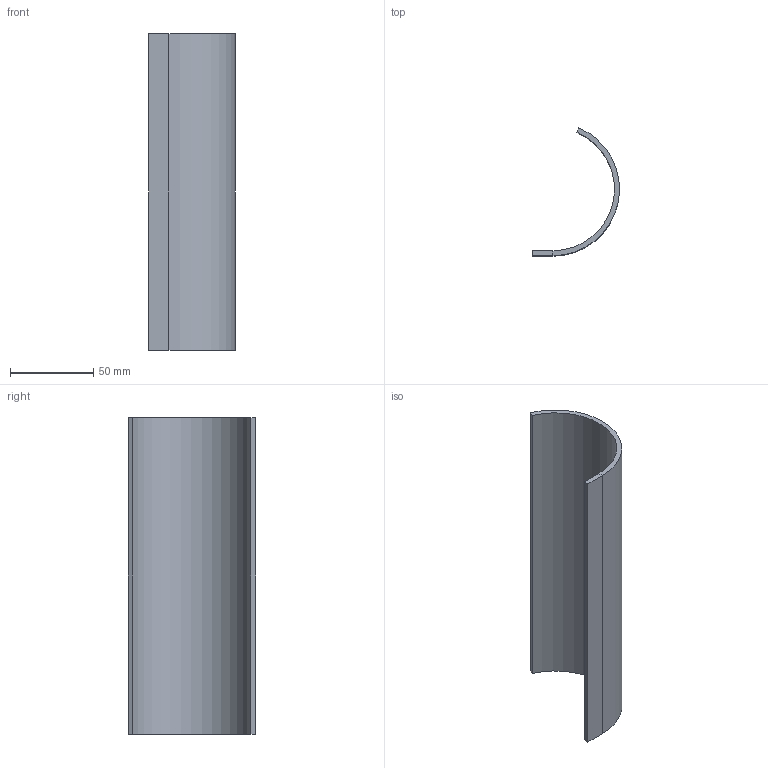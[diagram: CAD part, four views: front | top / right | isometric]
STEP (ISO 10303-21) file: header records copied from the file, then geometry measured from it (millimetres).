
FILE_DESCRIPTION (( 'STEP AP203' ), '1' );
FILE_NAME ('4899-4891_GRUPPO_AMMORTIZZATORE_POSTERIORE_DX_SX_STAFFA_LUNGA.STEP', '2019-02-20T19:14:28', ( '' ), ( '' ), 'SwSTEP 2.0', 'SolidWorks 2019', '' );
FILE_SCHEMA (( 'CONFIG_CONTROL_DESIGN' ));
Length unit declared in the file: millimetre
Products named in the file (1): 4899-4891_GRUPPO_AMMORTIZZATORE_POSTERIORE_DX_SX_STAFFA_LUNGA
Bounding box: 52.28 x 76.83 x 190 mm (x, y, z)
Volume: 67155.3 mm3; surface area: 46617.1 mm2
Topology: 1 solids, 1 shells, 10 faces, 20 edges, 12 vertices
Faces by surface type: plane 8, cylinder 2
Entity records: 333 total; most frequent: DIRECTION 46, CARTESIAN_POINT 43, ORIENTED_EDGE 40, EDGE_CURVE 20, VECTOR 16, LINE 16, AXIS2_PLACEMENT_3D 15, VERTEX_POINT 12
